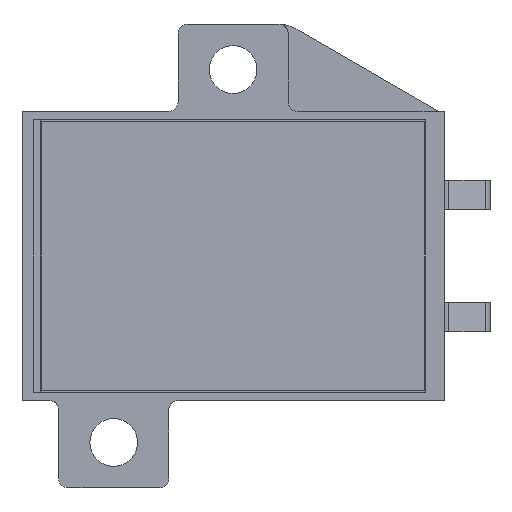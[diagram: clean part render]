
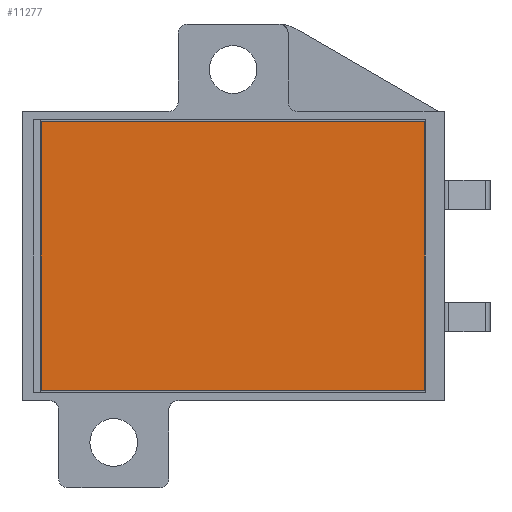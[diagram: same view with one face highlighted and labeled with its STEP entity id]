
A CAD part, front view. The second image highlights one B-rep face of the part: STEP entity #11277.
In plain terms, the highlighted planar face has unit normal (0, -1, 0).
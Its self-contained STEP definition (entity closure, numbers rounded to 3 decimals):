
#3644=DIRECTION('',(1.,0.,0.));
#3645=VECTOR('',#3644,20.9);
#3646=CARTESIAN_POINT('',(1.05,0.,-35.682));
#3647=LINE('',#3646,#3645);
#3768=DIRECTION('',(0.,0.,1.));
#3769=VECTOR('',#3768,14.64);
#3770=CARTESIAN_POINT('',(1.05,0.,-35.682));
#3771=LINE('',#3770,#3769);
#3772=DIRECTION('',(1.,0.,0.));
#3773=VECTOR('',#3772,20.9);
#3774=CARTESIAN_POINT('',(1.05,0.,-21.042));
#3775=LINE('',#3774,#3773);
#3776=DIRECTION('',(0.,0.,1.));
#3777=VECTOR('',#3776,14.64);
#3778=CARTESIAN_POINT('',(21.95,0.,-35.682));
#3779=LINE('',#3778,#3777);
#6288=CARTESIAN_POINT('',(21.95,0.,-21.042));
#6289=VERTEX_POINT('',#6288);
#6290=CARTESIAN_POINT('',(1.05,0.,-21.042));
#6291=VERTEX_POINT('',#6290);
#6324=CARTESIAN_POINT('',(21.95,0.,-35.682));
#6325=VERTEX_POINT('',#6324);
#6326=CARTESIAN_POINT('',(1.05,0.,-35.682));
#6327=VERTEX_POINT('',#6326);
#11265=CARTESIAN_POINT('',(21.95,0.,-5.502));
#11266=DIRECTION('',(0.,-1.,0.));
#11267=DIRECTION('',(-1.,0.,0.));
#11268=AXIS2_PLACEMENT_3D('',#11265,#11266,#11267);
#11269=PLANE('',#11268);
#11270=ORIENTED_EDGE('',*,*,#11229,.T.);
#11271=ORIENTED_EDGE('',*,*,#11026,.T.);
#11273=ORIENTED_EDGE('',*,*,#11272,.F.);
#11274=ORIENTED_EDGE('',*,*,#11082,.F.);
#11275=EDGE_LOOP('',(#11270,#11271,#11273,#11274));
#11276=FACE_OUTER_BOUND('',#11275,.F.);
#11277=ADVANCED_FACE('',(#11276),#11269,.T.);
#11026=EDGE_CURVE('',#6291,#6289,#3775,.T.);
#11082=EDGE_CURVE('',#6327,#6325,#3647,.T.);
#11229=EDGE_CURVE('',#6327,#6291,#3771,.T.);
#11272=EDGE_CURVE('',#6325,#6289,#3779,.T.);
